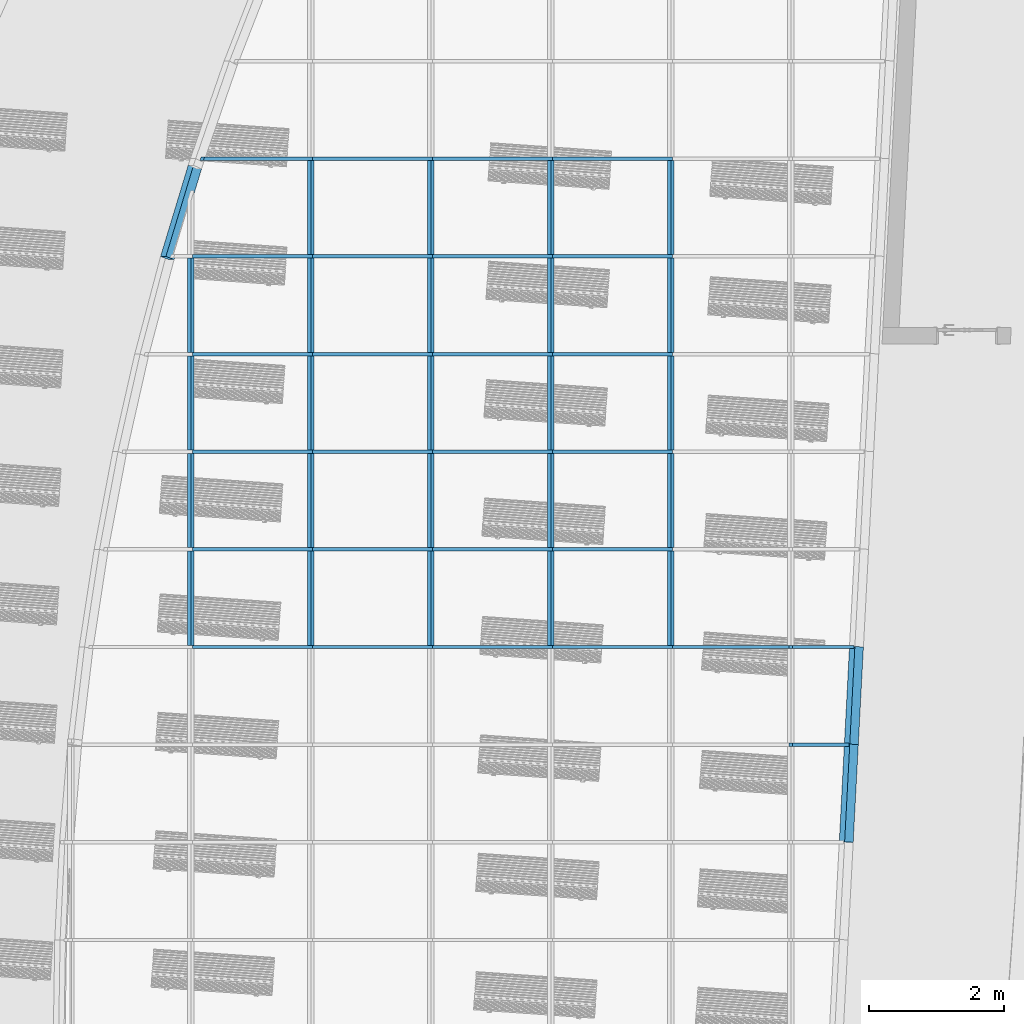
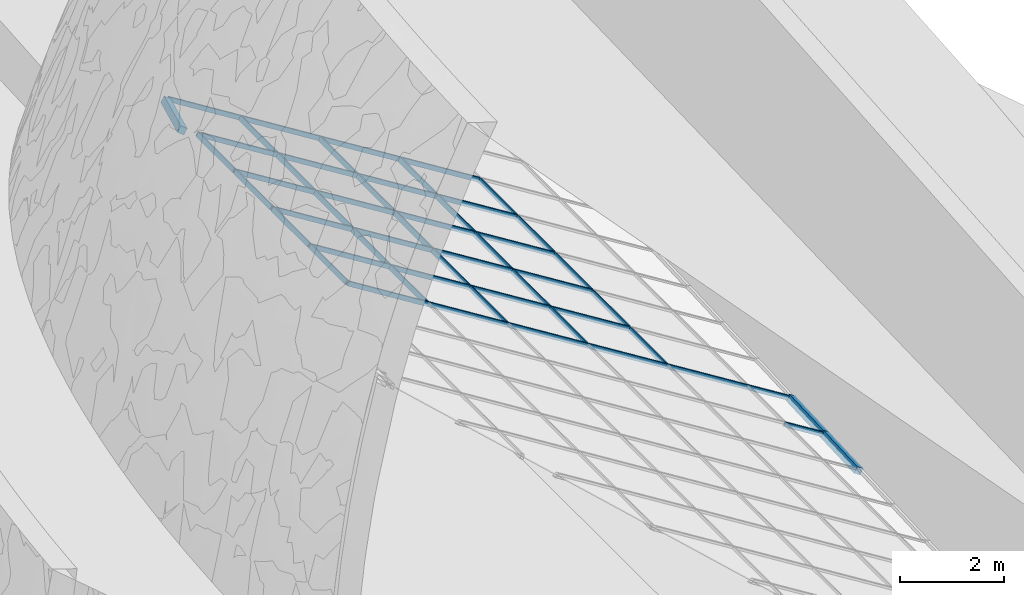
# One storey, part 14 of 82: 54 members, 1 element without a shape of its own.
"""IFC2X3 building model written with IfcOpenShell, lengths in millimetres."""

from ifc_helpers import new_model, entity, si_unit, converted_unit, derived_unit, direction, frame, frame_2d, origin, origin_2d_with_axis, place, context, subcontext, project, spatial, polyline, rectangle, extrude, clip, halfspace, bounded_halfspace, source, transform, mapped, material, type_object, type_shapes, element, aggregate, save


model = new_model("IFC2X3")

# Units and contexts
model_context = context("Model", 3, precision=0.01, world=origin(), true_north=direction((6.12303176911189e-17, 1.0)))
body_context = subcontext(model_context, "Body", "Model", "MODEL_VIEW")
ifc_project = project(units=[si_unit("LENGTHUNIT", "METRE", prefix="MILLI"), si_unit("AREAUNIT", "SQUARE_METRE"), si_unit("VOLUMEUNIT", "CUBIC_METRE"), converted_unit("PLANEANGLEUNIT", "DEGREE", entity("IfcRatioMeasure", 0.0174532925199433), si_unit("PLANEANGLEUNIT", "RADIAN"), dimensions=[0, 0, 0, 0, 0, 0, 0]), si_unit("MASSUNIT", "GRAM", prefix="KILO"), derived_unit("MASSDENSITYUNIT", [(si_unit("MASSUNIT", "GRAM", prefix="KILO"), 1), (si_unit("LENGTHUNIT", "METRE"), -3)]), si_unit("TIMEUNIT", "SECOND"), si_unit("FREQUENCYUNIT", "HERTZ"), si_unit("THERMODYNAMICTEMPERATUREUNIT", "DEGREE_CELSIUS"), derived_unit("THERMALTRANSMITTANCEUNIT", [(si_unit("MASSUNIT", "GRAM", prefix="KILO"), 1), (si_unit("THERMODYNAMICTEMPERATUREUNIT", "KELVIN"), -1), (si_unit("TIMEUNIT", "SECOND"), -3)]), derived_unit("VOLUMETRICFLOWRATEUNIT", [(si_unit("LENGTHUNIT", "METRE"), 3), (si_unit("TIMEUNIT", "SECOND"), -1)]), si_unit("ELECTRICCURRENTUNIT", "AMPERE"), si_unit("ELECTRICVOLTAGEUNIT", "VOLT"), si_unit("POWERUNIT", "WATT"), si_unit("FORCEUNIT", "NEWTON", prefix="KILO"), si_unit("ILLUMINANCEUNIT", "LUX"), si_unit("LUMINOUSFLUXUNIT", "LUMEN"), si_unit("LUMINOUSINTENSITYUNIT", "CANDELA"), derived_unit("USERDEFINED", [(si_unit("MASSUNIT", "GRAM", prefix="KILO"), -1), (si_unit("LENGTHUNIT", "METRE"), -2), (si_unit("TIMEUNIT", "SECOND"), 3), (si_unit("LUMINOUSFLUXUNIT", "LUMEN"), 1)]), derived_unit("LINEARVELOCITYUNIT", [(si_unit("LENGTHUNIT", "METRE"), 1), (si_unit("TIMEUNIT", "SECOND"), -1)]), si_unit("PRESSUREUNIT", "PASCAL"), derived_unit("USERDEFINED", [(si_unit("LENGTHUNIT", "METRE"), -2), (si_unit("MASSUNIT", "GRAM", prefix="KILO"), 1), (si_unit("TIMEUNIT", "SECOND"), -2)])], contexts=[model_context])

# Site, building, storey
site_placement = place(None, origin())
site = spatial("IfcSite", under=ifc_project, at=site_placement, Name="表面", CompositionType="ELEMENT")
building_placement = place(site_placement, origin())
building = spatial("IfcBuilding", under=site, at=building_placement, CompositionType="ELEMENT")
storey_placement = place(building_placement, origin())
storey = spatial("IfcBuildingStorey", under=building, at=storey_placement, Name="1F", CompositionType="ELEMENT", Elevation=0.0)

# Curtain wall, members
curtain_wall_type = type_object("IfcCurtainWallType", Name="幕墙系统:1450 x 2100mm", PredefinedType="NOTDEFINED")
curtain_wall_placement = place(storey_placement, origin())
curtain_wall = element("IfcCurtainWall", 1, at=curtain_wall_placement, inside=storey, type_object=curtain_wall_type, Name="幕墙系统:1450 x 2100mm", ObjectType="幕墙系统:1450 x 2100mm")
ifc_material_1 = material(Name="金属 - 铝")
member_type_1 = type_object("IfcMemberType", Name="50 x 100mm", PredefinedType="MEMBER")
shared_shape_1 = source(origin(), body_context, "Body", "SweptSolid", [
    extrude(rectangle(XDim=100.0, YDim=50.0, at=origin_2d_with_axis()), frame((0.0, 0.0, -1400.0), z_axis=(0.0, 0.0, 1.0), x_axis=(0.0, -1.0, 0.0)), (0.0, 0.0, 1.0), 1400.0),
])
type_shapes(member_type_1, [shared_shape_1])
placement = place(building_placement, frame((0.0, 0.0, 9000.0)))
member_1_placement = place(placement, frame((-21700.0006149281, -4713.90315351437, 4255.86225190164), z_axis=(0.0, 1.0, 0.0), x_axis=(-0.848048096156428, 0.0, 0.529919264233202)))
member_1 = element("IfcMember", 2, at=member_1_placement, type_object=member_type_1, material=ifc_material_1, Name="矩形竖梃:50 x 100mm", ObjectType="50 x 100mm", context=body_context, shape_type="MappedRepresentation", body=[
    mapped(shared_shape_1, transform((0.0, 0.0, 0.0), scale=1.0)),
])
member_2_placement = place(placement, frame((-21700.0006149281, -6163.90315351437, 4255.86225190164), z_axis=(0.0, 1.0, 0.0), x_axis=(-0.848048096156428, 0.0, 0.529919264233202)))
member_2 = element("IfcMember", 3, at=member_2_placement, type_object=member_type_1, material=ifc_material_1, Name="矩形竖梃:50 x 100mm", ObjectType="50 x 100mm", context=body_context, shape_type="MappedRepresentation", body=[
    mapped(shared_shape_1, transform((0.0, 0.0, 0.0), scale=1.0)),
])
member_3_placement = place(placement, frame((-21700.0006149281, -7613.90315351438, 4255.86225190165), z_axis=(0.0, 1.0, 0.0), x_axis=(-0.848048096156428, 0.0, 0.529919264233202)))
member_3 = element("IfcMember", 4, at=member_3_placement, type_object=member_type_1, material=ifc_material_1, Name="矩形竖梃:50 x 100mm", ObjectType="50 x 100mm", context=body_context, shape_type="MappedRepresentation", body=[
    mapped(shared_shape_1, transform((0.0, 0.0, 0.0), scale=1.0)),
])
member_4_placement = place(placement, frame((-21700.0006149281, -9063.90315351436, 4255.86225190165), z_axis=(0.0, 1.0, 0.0), x_axis=(-0.848048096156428, 0.0, 0.529919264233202)))
member_4 = element("IfcMember", 5, at=member_4_placement, type_object=member_type_1, material=ifc_material_1, Name="矩形竖梃:50 x 100mm", ObjectType="50 x 100mm", context=body_context, shape_type="MappedRepresentation", body=[
    mapped(shared_shape_1, transform((0.0, 0.0, 0.0), scale=1.0)),
])
member_5_placement = place(placement, frame((-21700.0006149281, -10513.9031535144, 4255.86225190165), z_axis=(0.0, 1.0, 0.0), x_axis=(-0.848048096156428, 0.0, 0.529919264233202)))
member_5 = element("IfcMember", 6, at=member_5_placement, type_object=member_type_1, material=ifc_material_1, Name="矩形竖梃:50 x 100mm", ObjectType="50 x 100mm", context=body_context, shape_type="MappedRepresentation", body=[
    mapped(shared_shape_1, transform((0.0, 0.0, 0.0), scale=1.0)),
])
member_6_placement = place(placement, frame((-23480.9016168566, -4713.90315351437, 5368.69270679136), z_axis=(0.0, 1.0, 0.0), x_axis=(-0.848048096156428, 0.0, 0.529919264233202)))
member_6 = element("IfcMember", 7, at=member_6_placement, type_object=member_type_1, material=ifc_material_1, Name="矩形竖梃:50 x 100mm", ObjectType="50 x 100mm", context=body_context, shape_type="MappedRepresentation", body=[
    mapped(shared_shape_1, transform((0.0, 0.0, 0.0), scale=1.0)),
])
member_7_placement = place(placement, frame((-23480.9016168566, -6163.90315351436, 5368.69270679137), z_axis=(0.0, 1.0, 0.0), x_axis=(-0.848048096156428, 0.0, 0.529919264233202)))
member_7 = element("IfcMember", 8, at=member_7_placement, type_object=member_type_1, material=ifc_material_1, Name="矩形竖梃:50 x 100mm", ObjectType="50 x 100mm", context=body_context, shape_type="MappedRepresentation", body=[
    mapped(shared_shape_1, transform((0.0, 0.0, 0.0), scale=1.0)),
])
member_8_placement = place(placement, frame((-23480.9016168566, -7613.90315351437, 5368.69270679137), z_axis=(0.0, 1.0, 0.0), x_axis=(-0.848048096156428, 0.0, 0.529919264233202)))
member_8 = element("IfcMember", 9, at=member_8_placement, type_object=member_type_1, material=ifc_material_1, Name="矩形竖梃:50 x 100mm", ObjectType="50 x 100mm", context=body_context, shape_type="MappedRepresentation", body=[
    mapped(shared_shape_1, transform((0.0, 0.0, 0.0), scale=1.0)),
])
member_9_placement = place(placement, frame((-23480.9016168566, -9063.90315351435, 5368.69270679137), z_axis=(0.0, 1.0, 0.0), x_axis=(-0.848048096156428, 0.0, 0.529919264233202)))
member_9 = element("IfcMember", 10, at=member_9_placement, type_object=member_type_1, material=ifc_material_1, Name="矩形竖梃:50 x 100mm", ObjectType="50 x 100mm", context=body_context, shape_type="MappedRepresentation", body=[
    mapped(shared_shape_1, transform((0.0, 0.0, 0.0), scale=1.0)),
])
member_10_placement = place(placement, frame((-23480.9016168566, -10513.9031535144, 5368.69270679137), z_axis=(0.0, 1.0, 0.0), x_axis=(-0.848048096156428, 0.0, 0.529919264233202)))
member_10 = element("IfcMember", 11, at=member_10_placement, type_object=member_type_1, material=ifc_material_1, Name="矩形竖梃:50 x 100mm", ObjectType="50 x 100mm", context=body_context, shape_type="MappedRepresentation", body=[
    mapped(shared_shape_1, transform((0.0, 0.0, 0.0), scale=1.0)),
])
member_11_placement = place(placement, frame((-25261.8026187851, -4713.90315351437, 6481.52316168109), z_axis=(0.0, 1.0, 0.0), x_axis=(-0.848048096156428, 0.0, 0.529919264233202)))
member_11 = element("IfcMember", 12, at=member_11_placement, type_object=member_type_1, material=ifc_material_1, Name="矩形竖梃:50 x 100mm", ObjectType="50 x 100mm", context=body_context, shape_type="MappedRepresentation", body=[
    mapped(shared_shape_1, transform((0.0, 0.0, 0.0), scale=1.0)),
])
member_12_placement = place(placement, frame((-25261.8026187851, -6163.90315351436, 6481.52316168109), z_axis=(0.0, 1.0, 0.0), x_axis=(-0.848048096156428, 0.0, 0.529919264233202)))
member_12 = element("IfcMember", 13, at=member_12_placement, type_object=member_type_1, material=ifc_material_1, Name="矩形竖梃:50 x 100mm", ObjectType="50 x 100mm", context=body_context, shape_type="MappedRepresentation", body=[
    mapped(shared_shape_1, transform((0.0, 0.0, 0.0), scale=1.0)),
])
member_13_placement = place(placement, frame((-25261.8026187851, -7613.90315351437, 6481.52316168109), z_axis=(0.0, 1.0, 0.0), x_axis=(-0.848048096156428, 0.0, 0.529919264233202)))
member_13 = element("IfcMember", 14, at=member_13_placement, type_object=member_type_1, material=ifc_material_1, Name="矩形竖梃:50 x 100mm", ObjectType="50 x 100mm", context=body_context, shape_type="MappedRepresentation", body=[
    mapped(shared_shape_1, transform((0.0, 0.0, 0.0), scale=1.0)),
])
member_14_placement = place(placement, frame((-25261.8026187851, -9063.90315351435, 6481.52316168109), z_axis=(0.0, 1.0, 0.0), x_axis=(-0.848048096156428, 0.0, 0.529919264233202)))
member_14 = element("IfcMember", 15, at=member_14_placement, type_object=member_type_1, material=ifc_material_1, Name="矩形竖梃:50 x 100mm", ObjectType="50 x 100mm", context=body_context, shape_type="MappedRepresentation", body=[
    mapped(shared_shape_1, transform((0.0, 0.0, 0.0), scale=1.0)),
])
member_15_placement = place(placement, frame((-25261.8026187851, -10513.9031535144, 6481.5231616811), z_axis=(0.0, 1.0, 0.0), x_axis=(-0.848048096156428, 0.0, 0.529919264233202)))
member_15 = element("IfcMember", 16, at=member_15_placement, type_object=member_type_1, material=ifc_material_1, Name="矩形竖梃:50 x 100mm", ObjectType="50 x 100mm", context=body_context, shape_type="MappedRepresentation", body=[
    mapped(shared_shape_1, transform((0.0, 0.0, 0.0), scale=1.0)),
])
member_16_placement = place(placement, frame((-27042.7036207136, -4713.90315351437, 7594.35361657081), z_axis=(0.0, 1.0, 0.0), x_axis=(-0.848048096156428, 0.0, 0.529919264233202)))
member_16 = element("IfcMember", 17, at=member_16_placement, type_object=member_type_1, material=ifc_material_1, Name="矩形竖梃:50 x 100mm", ObjectType="50 x 100mm", context=body_context, shape_type="MappedRepresentation", body=[
    mapped(shared_shape_1, transform((0.0, 0.0, 0.0), scale=1.0)),
])
member_17_placement = place(placement, frame((-27042.7036207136, -6163.90315351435, 7594.35361657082), z_axis=(0.0, 1.0, 0.0), x_axis=(-0.848048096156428, 0.0, 0.529919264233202)))
member_17 = element("IfcMember", 18, at=member_17_placement, type_object=member_type_1, material=ifc_material_1, Name="矩形竖梃:50 x 100mm", ObjectType="50 x 100mm", context=body_context, shape_type="MappedRepresentation", body=[
    mapped(shared_shape_1, transform((0.0, 0.0, 0.0), scale=1.0)),
])
member_18_placement = place(placement, frame((-27042.7036207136, -7613.90315351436, 7594.35361657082), z_axis=(0.0, 1.0, 0.0), x_axis=(-0.848048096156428, 0.0, 0.529919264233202)))
member_18 = element("IfcMember", 19, at=member_18_placement, type_object=member_type_1, material=ifc_material_1, Name="矩形竖梃:50 x 100mm", ObjectType="50 x 100mm", context=body_context, shape_type="MappedRepresentation", body=[
    mapped(shared_shape_1, transform((0.0, 0.0, 0.0), scale=1.0)),
])
member_19_placement = place(placement, frame((-27042.7036207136, -9063.90315351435, 7594.35361657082), z_axis=(0.0, 1.0, 0.0), x_axis=(-0.848048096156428, 0.0, 0.529919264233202)))
member_19 = element("IfcMember", 20, at=member_19_placement, type_object=member_type_1, material=ifc_material_1, Name="矩形竖梃:50 x 100mm", ObjectType="50 x 100mm", context=body_context, shape_type="MappedRepresentation", body=[
    mapped(shared_shape_1, transform((0.0, 0.0, 0.0), scale=1.0)),
])
member_20_placement = place(placement, frame((-27042.7036207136, -10513.9031535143, 7594.35361657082), z_axis=(0.0, 1.0, 0.0), x_axis=(-0.848048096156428, 0.0, 0.529919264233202)))
member_20 = element("IfcMember", 21, at=member_20_placement, type_object=member_type_1, material=ifc_material_1, Name="矩形竖梃:50 x 100mm", ObjectType="50 x 100mm", context=body_context, shape_type="MappedRepresentation", body=[
    mapped(shared_shape_1, transform((0.0, 0.0, 0.0), scale=1.0)),
])
member_21_placement = place(placement, frame((-28823.6046226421, -6163.90315351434, 8707.18407146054), z_axis=(0.0, 1.0, 0.0), x_axis=(-0.848048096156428, 0.0, 0.529919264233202)))
member_21 = element("IfcMember", 22, at=member_21_placement, type_object=member_type_1, material=ifc_material_1, Name="矩形竖梃:50 x 100mm", ObjectType="50 x 100mm", context=body_context, shape_type="MappedRepresentation", body=[
    mapped(shared_shape_1, transform((0.0, 0.0, 0.0), scale=1.0)),
])
member_22_placement = place(placement, frame((-28823.6046226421, -7613.90315351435, 8707.18407146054), z_axis=(0.0, 1.0, 0.0), x_axis=(-0.848048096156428, 0.0, 0.529919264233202)))
member_22 = element("IfcMember", 23, at=member_22_placement, type_object=member_type_1, material=ifc_material_1, Name="矩形竖梃:50 x 100mm", ObjectType="50 x 100mm", context=body_context, shape_type="MappedRepresentation", body=[
    mapped(shared_shape_1, transform((0.0, 0.0, 0.0), scale=1.0)),
])
member_23_placement = place(placement, frame((-28823.6046226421, -9063.90315351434, 8707.18407146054), z_axis=(0.0, 1.0, 0.0), x_axis=(-0.848048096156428, 0.0, 0.529919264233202)))
member_23 = element("IfcMember", 24, at=member_23_placement, type_object=member_type_1, material=ifc_material_1, Name="矩形竖梃:50 x 100mm", ObjectType="50 x 100mm", context=body_context, shape_type="MappedRepresentation", body=[
    mapped(shared_shape_1, transform((0.0, 0.0, 0.0), scale=1.0)),
])
member_24_placement = place(placement, frame((-28823.6046226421, -10513.9031535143, 8707.18407146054), z_axis=(0.0, 1.0, 0.0), x_axis=(-0.848048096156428, 0.0, 0.529919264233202)))
member_24 = element("IfcMember", 25, at=member_24_placement, type_object=member_type_1, material=ifc_material_1, Name="矩形竖梃:50 x 100mm", ObjectType="50 x 100mm", context=body_context, shape_type="MappedRepresentation", body=[
    mapped(shared_shape_1, transform((0.0, 0.0, 0.0), scale=1.0)),
])
member_type_2 = type_object("IfcMemberType", Name="50 x 100mm", PredefinedType="MEMBER")
shared_shape_2 = source(origin(), body_context, "Body", "SweptSolid", [
    extrude(rectangle(XDim=100.0, YDim=50.0, at=origin_2d_with_axis()), frame((0.0, 0.0, -2100.0), z_axis=(0.0, 0.0, 1.0), x_axis=(0.0, -1.0, 0.0)), (0.0, 0.0, 1.0), 2100.0),
])
type_shapes(member_type_2, [shared_shape_2])
member_25_placement = place(placement, frame((-21700.0006149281, -11938.9031535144, 4255.86225190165), z_axis=(-0.848048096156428, 0.0, 0.529919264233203), x_axis=(0.0, -1.0, 0.0)))
member_25 = element("IfcMember", 26, at=member_25_placement, type_object=member_type_2, material=ifc_material_1, Name="矩形竖梃:50 x 100mm", ObjectType="50 x 100mm", context=body_context, shape_type="MappedRepresentation", body=[
    mapped(shared_shape_2, transform((0.0, 0.0, 0.0), scale=1.0)),
])
member_26_placement = place(placement, frame((-23480.9016168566, -4688.90315351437, 5368.69270679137), z_axis=(-0.848048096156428, 0.0, 0.529919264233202), x_axis=(0.0, -1.0, 0.0)))
member_26 = element("IfcMember", 27, at=member_26_placement, type_object=member_type_2, material=ifc_material_1, Name="矩形竖梃:50 x 100mm", ObjectType="50 x 100mm", context=body_context, shape_type="MappedRepresentation", body=[
    mapped(shared_shape_2, transform((0.0, 0.0, 0.0), scale=1.0)),
])
member_27_placement = place(placement, frame((-23480.9016168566, -6138.90315351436, 5368.69270679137), z_axis=(-0.848048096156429, 0.0, 0.529919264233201), x_axis=(0.0, -1.0, 0.0)))
member_27 = element("IfcMember", 28, at=member_27_placement, type_object=member_type_2, material=ifc_material_1, Name="矩形竖梃:50 x 100mm", ObjectType="50 x 100mm", context=body_context, shape_type="MappedRepresentation", body=[
    mapped(shared_shape_2, transform((0.0, 0.0, 0.0), scale=1.0)),
])
member_28_placement = place(placement, frame((-23480.9016168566, -7588.90315351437, 5368.69270679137), z_axis=(-0.848048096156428, 0.0, 0.529919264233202), x_axis=(0.0, -1.0, 0.0)))
member_28 = element("IfcMember", 29, at=member_28_placement, type_object=member_type_2, material=ifc_material_1, Name="矩形竖梃:50 x 100mm", ObjectType="50 x 100mm", context=body_context, shape_type="MappedRepresentation", body=[
    mapped(shared_shape_2, transform((0.0, 0.0, 0.0), scale=1.0)),
])
member_29_placement = place(placement, frame((-23480.9016168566, -9038.90315351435, 5368.69270679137), z_axis=(-0.848048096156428, 0.0, 0.529919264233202), x_axis=(0.0, -1.0, 0.0)))
member_29 = element("IfcMember", 30, at=member_29_placement, type_object=member_type_2, material=ifc_material_1, Name="矩形竖梃:50 x 100mm", ObjectType="50 x 100mm", context=body_context, shape_type="MappedRepresentation", body=[
    mapped(shared_shape_2, transform((0.0, 0.0, 0.0), scale=1.0)),
])
member_30_placement = place(placement, frame((-23480.9016168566, -10488.9031535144, 5368.69270679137), z_axis=(-0.848048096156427, 0.0, 0.529919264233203), x_axis=(0.0, -1.0, 0.0)))
member_30 = element("IfcMember", 31, at=member_30_placement, type_object=member_type_2, material=ifc_material_1, Name="矩形竖梃:50 x 100mm", ObjectType="50 x 100mm", context=body_context, shape_type="MappedRepresentation", body=[
    mapped(shared_shape_2, transform((0.0, 0.0, 0.0), scale=1.0)),
])
member_31_placement = place(placement, frame((-23480.9016168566, -11938.9031535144, 5368.69270679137), z_axis=(-0.848048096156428, 0.0, 0.529919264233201), x_axis=(0.0, -1.0, 0.0)))
member_31 = element("IfcMember", 32, at=member_31_placement, type_object=member_type_2, material=ifc_material_1, Name="矩形竖梃:50 x 100mm", ObjectType="50 x 100mm", context=body_context, shape_type="MappedRepresentation", body=[
    mapped(shared_shape_2, transform((0.0, 0.0, 0.0), scale=1.0)),
])
member_32_placement = place(placement, frame((-25261.8026187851, -4688.90315351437, 6481.52316168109), z_axis=(-0.848048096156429, 0.0, 0.529919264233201), x_axis=(0.0, -1.0, 0.0)))
member_32 = element("IfcMember", 33, at=member_32_placement, type_object=member_type_2, material=ifc_material_1, Name="矩形竖梃:50 x 100mm", ObjectType="50 x 100mm", context=body_context, shape_type="MappedRepresentation", body=[
    mapped(shared_shape_2, transform((0.0, 0.0, 0.0), scale=1.0)),
])
member_33_placement = place(placement, frame((-25261.8026187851, -6138.90315351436, 6481.52316168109), z_axis=(-0.848048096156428, 0.0, 0.529919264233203), x_axis=(0.0, -1.0, 0.0)))
member_33 = element("IfcMember", 34, at=member_33_placement, type_object=member_type_2, material=ifc_material_1, Name="矩形竖梃:50 x 100mm", ObjectType="50 x 100mm", context=body_context, shape_type="MappedRepresentation", body=[
    mapped(shared_shape_2, transform((0.0, 0.0, 0.0), scale=1.0)),
])
member_34_placement = place(placement, frame((-25261.8026187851, -7588.90315351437, 6481.52316168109), z_axis=(-0.848048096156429, 0.0, 0.529919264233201), x_axis=(0.0, -1.0, 0.0)))
member_34 = element("IfcMember", 35, at=member_34_placement, type_object=member_type_2, material=ifc_material_1, Name="矩形竖梃:50 x 100mm", ObjectType="50 x 100mm", context=body_context, shape_type="MappedRepresentation", body=[
    mapped(shared_shape_2, transform((0.0, 0.0, 0.0), scale=1.0)),
])
member_35_placement = place(placement, frame((-25261.8026187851, -9038.90315351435, 6481.52316168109), z_axis=(-0.848048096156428, 0.0, 0.529919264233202), x_axis=(0.0, -1.0, 0.0)))
member_35 = element("IfcMember", 36, at=member_35_placement, type_object=member_type_2, material=ifc_material_1, Name="矩形竖梃:50 x 100mm", ObjectType="50 x 100mm", context=body_context, shape_type="MappedRepresentation", body=[
    mapped(shared_shape_2, transform((0.0, 0.0, 0.0), scale=1.0)),
])
member_36_placement = place(placement, frame((-25261.8026187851, -10488.9031535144, 6481.5231616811), z_axis=(-0.848048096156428, 0.0, 0.529919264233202), x_axis=(0.0, -1.0, 0.0)))
member_36 = element("IfcMember", 37, at=member_36_placement, type_object=member_type_2, material=ifc_material_1, Name="矩形竖梃:50 x 100mm", ObjectType="50 x 100mm", context=body_context, shape_type="MappedRepresentation", body=[
    mapped(shared_shape_2, transform((0.0, 0.0, 0.0), scale=1.0)),
])
member_37_placement = place(placement, frame((-25261.8026187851, -11938.9031535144, 6481.5231616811), z_axis=(-0.848048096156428, 0.0, 0.529919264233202), x_axis=(0.0, -1.0, 0.0)))
member_37 = element("IfcMember", 38, at=member_37_placement, type_object=member_type_2, material=ifc_material_1, Name="矩形竖梃:50 x 100mm", ObjectType="50 x 100mm", context=body_context, shape_type="MappedRepresentation", body=[
    mapped(shared_shape_2, transform((0.0, 0.0, 0.0), scale=1.0)),
])
member_38_placement = place(placement, frame((-27042.7036207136, -4688.90315351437, 7594.35361657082), z_axis=(-0.848048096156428, 0.0, 0.529919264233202), x_axis=(0.0, -1.0, 0.0)))
member_38 = element("IfcMember", 39, at=member_38_placement, type_object=member_type_2, material=ifc_material_1, Name="矩形竖梃:50 x 100mm", ObjectType="50 x 100mm", context=body_context, shape_type="MappedRepresentation", body=[
    mapped(shared_shape_2, transform((0.0, 0.0, 0.0), scale=1.0)),
])
member_39_placement = place(placement, frame((-27042.7036207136, -6138.90315351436, 7594.35361657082), z_axis=(-0.848048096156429, 0.0, 0.529919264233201), x_axis=(0.0, -1.0, 0.0)))
member_39 = element("IfcMember", 40, at=member_39_placement, type_object=member_type_2, material=ifc_material_1, Name="矩形竖梃:50 x 100mm", ObjectType="50 x 100mm", context=body_context, shape_type="MappedRepresentation", body=[
    mapped(shared_shape_2, transform((0.0, 0.0, 0.0), scale=1.0)),
])
member_40_placement = place(placement, frame((-27042.7036207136, -7588.90315351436, 7594.35361657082), z_axis=(-0.848048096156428, 0.0, 0.529919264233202), x_axis=(0.0, -1.0, 0.0)))
member_40 = element("IfcMember", 41, at=member_40_placement, type_object=member_type_2, material=ifc_material_1, Name="矩形竖梃:50 x 100mm", ObjectType="50 x 100mm", context=body_context, shape_type="MappedRepresentation", body=[
    mapped(shared_shape_2, transform((0.0, 0.0, 0.0), scale=1.0)),
])
member_41_placement = place(placement, frame((-27042.7036207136, -9038.90315351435, 7594.35361657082), z_axis=(-0.848048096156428, 0.0, 0.529919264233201), x_axis=(0.0, -1.0, 0.0)))
member_41 = element("IfcMember", 42, at=member_41_placement, type_object=member_type_2, material=ifc_material_1, Name="矩形竖梃:50 x 100mm", ObjectType="50 x 100mm", context=body_context, shape_type="MappedRepresentation", body=[
    mapped(shared_shape_2, transform((0.0, 0.0, 0.0), scale=1.0)),
])
member_42_placement = place(placement, frame((-27042.7036207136, -10488.9031535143, 7594.35361657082), z_axis=(-0.848048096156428, 0.0, 0.529919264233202), x_axis=(0.0, -1.0, 0.0)))
member_42 = element("IfcMember", 43, at=member_42_placement, type_object=member_type_2, material=ifc_material_1, Name="矩形竖梃:50 x 100mm", ObjectType="50 x 100mm", context=body_context, shape_type="MappedRepresentation", body=[
    mapped(shared_shape_2, transform((0.0, 0.0, 0.0), scale=1.0)),
])
member_43_placement = place(placement, frame((-27042.7036207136, -11938.9031535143, 7594.35361657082), z_axis=(-0.848048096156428, 0.0, 0.529919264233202), x_axis=(0.0, -1.0, 0.0)))
member_43 = element("IfcMember", 44, at=member_43_placement, type_object=member_type_2, material=ifc_material_1, Name="矩形竖梃:50 x 100mm", ObjectType="50 x 100mm", context=body_context, shape_type="MappedRepresentation", body=[
    mapped(shared_shape_2, transform((0.0, 0.0, 0.0), scale=1.0)),
])
member_44_placement = place(placement, frame((-28823.6046226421, -6138.90315351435, 8707.18407146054), z_axis=(-0.848048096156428, 0.0, 0.529919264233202), x_axis=(0.0, -1.0, 0.0)))
member_44 = element("IfcMember", 45, at=member_44_placement, type_object=member_type_2, material=ifc_material_1, Name="矩形竖梃:50 x 100mm", ObjectType="50 x 100mm", context=body_context, shape_type="MappedRepresentation", body=[
    mapped(shared_shape_2, transform((0.0, 0.0, 0.0), scale=1.0)),
])
member_45_placement = place(placement, frame((-28823.6046226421, -7588.90315351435, 8707.18407146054), z_axis=(-0.848048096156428, 0.0, 0.529919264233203), x_axis=(0.0, -1.0, 0.0)))
member_45 = element("IfcMember", 46, at=member_45_placement, type_object=member_type_2, material=ifc_material_1, Name="矩形竖梃:50 x 100mm", ObjectType="50 x 100mm", context=body_context, shape_type="MappedRepresentation", body=[
    mapped(shared_shape_2, transform((0.0, 0.0, 0.0), scale=1.0)),
])
member_46_placement = place(placement, frame((-28823.6046226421, -9038.90315351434, 8707.18407146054), z_axis=(-0.848048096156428, 0.0, 0.529919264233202), x_axis=(0.0, -1.0, 0.0)))
member_46 = element("IfcMember", 47, at=member_46_placement, type_object=member_type_2, material=ifc_material_1, Name="矩形竖梃:50 x 100mm", ObjectType="50 x 100mm", context=body_context, shape_type="MappedRepresentation", body=[
    mapped(shared_shape_2, transform((0.0, 0.0, 0.0), scale=1.0)),
])
member_47_placement = place(placement, frame((-28823.6046226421, -10488.9031535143, 8707.18407146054), z_axis=(-0.848048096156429, 0.0, 0.529919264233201), x_axis=(0.0, -1.0, 0.0)))
member_47 = element("IfcMember", 48, at=member_47_placement, type_object=member_type_2, material=ifc_material_1, Name="矩形竖梃:50 x 100mm", ObjectType="50 x 100mm", context=body_context, shape_type="MappedRepresentation", body=[
    mapped(shared_shape_2, transform((0.0, 0.0, 0.0), scale=1.0)),
])
member_48_placement = place(placement, frame((-28823.6046226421, -11938.9031535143, 8707.18407146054), z_axis=(-0.848048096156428, 0.0, 0.529919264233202), x_axis=(0.0, -1.0, 0.0)))
member_48 = element("IfcMember", 49, at=member_48_placement, type_object=member_type_2, material=ifc_material_1, Name="矩形竖梃:50 x 100mm", ObjectType="50 x 100mm", context=body_context, shape_type="MappedRepresentation", body=[
    mapped(shared_shape_2, transform((0.0, 0.0, 0.0), scale=1.0)),
])
ifc_material_2 = material(Name="木质 - 木材")
member_type_3 = type_object("IfcMemberType", Name="200 x 150mm", PredefinedType="MEMBER")
shared_shape_3 = source(origin(), body_context, "Body", "SweptSolid", [
    extrude(rectangle(XDim=150.0, YDim=150.0, at=frame_2d((2.8421709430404e-14, 0.0), x_axis=(1.0, 0.0))), frame((-75.0, 0.0, -1452.76614220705), z_axis=(0.0, 0.0, 1.0), x_axis=(0.0, -1.0, 0.0)), (0.0, 0.0, 1.0), 1452.76614220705),
])
type_shapes(member_type_3, [shared_shape_3])
member_49_placement = place(placement, frame((-18953.6061554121, -13388.9031535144, 2539.7245258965), z_axis=(-0.0523079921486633, -0.998095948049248, 0.0326856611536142), x_axis=(0.846433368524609, -0.0616804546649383, -0.528910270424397)))
member_49 = element("IfcMember", 50, at=member_49_placement, type_object=member_type_3, material=ifc_material_2, Name="矩形竖梃:200 x 150mm", ObjectType="200 x 150mm", context=body_context, shape_type="MappedRepresentation", body=[
    mapped(shared_shape_3, transform((0.0, 0.0, 0.0), scale=1.0)),
])
member_50_placement = place(placement, frame((-19029.5974353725, -14838.9031535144, 2587.20914775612), z_axis=(-0.0523079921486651, -0.998095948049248, 0.0326856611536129), x_axis=(0.846433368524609, -0.0616804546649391, -0.528910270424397)))
member_50 = element("IfcMember", 51, at=member_50_placement, type_object=member_type_3, material=ifc_material_2, Name="矩形竖梃:200 x 150mm", ObjectType="200 x 150mm", context=body_context, shape_type="MappedRepresentation", body=[
    mapped(shared_shape_3, transform((0.0, 0.0, 0.0), scale=1.0)),
])
member_type_4 = type_object("IfcMemberType", Name="200 x 150mm", PredefinedType="MEMBER")
shared_shape_4 = source(origin(), body_context, "Body", "Clipping", [
    clip(clip(extrude(rectangle(XDim=150.0, YDim=150.0, at=frame_2d((0.0, 8.5265128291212e-14), x_axis=(1.0, 0.0))), frame((-75.0, 0.0, -1437.0088115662), z_axis=(0.0, 0.0, 1.0), x_axis=(0.0, -1.0, 0.0)), (0.0, 0.0, 1.0), 1437.0088115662), halfspace(frame((0.0, -304.8, -1437.0088115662), z_axis=(-0.020386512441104, 0.0, -0.999792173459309), x_axis=(-0.999792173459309, 0.0, 0.020386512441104)), False)), halfspace(frame((0.0, -304.8, 0.0), z_axis=(-0.0106254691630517, 0.0, 0.999943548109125), x_axis=(-0.999943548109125, 0.0, -0.0106254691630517)), False)),
])
type_shapes(member_type_4, [shared_shape_4])
member_51_placement = place(placement, frame((-28823.6046226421, -4785.69882023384, 8707.18407146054), z_axis=(0.285373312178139, 0.941681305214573, -0.17832103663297), x_axis=(-0.798591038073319, 0.33650604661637, 0.499015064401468)))
member_51 = element("IfcMember", 52, at=member_51_placement, type_object=member_type_4, material=ifc_material_2, Name="矩形竖梃:200 x 150mm", ObjectType="200 x 150mm", context=body_context, shape_type="MappedRepresentation", body=[
    mapped(shared_shape_4, transform((0.0, 0.0, 0.0), scale=1.0)),
])
member_type_5 = type_object("IfcMemberType", Name="50 x 100mm", PredefinedType="MEMBER")
shared_shape_5 = source(origin(), body_context, "Body", "Clipping", [
    clip(extrude(rectangle(XDim=100.0, YDim=50.0, at=origin_2d_with_axis()), frame((0.0, 0.0, -2063.07263702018), z_axis=(0.0, 0.0, 1.0), x_axis=(0.0, -1.0, 0.0)), (0.0, 0.0, 1.0), 1911.26431599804), halfspace(frame((-1393.32031552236, 75.0, -730.656609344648), z_axis=(-0.377864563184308, 0.0, 0.92586088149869), x_axis=(0.92586088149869, 0.0, 0.377864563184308)), False)),
])
type_shapes(member_type_5, [shared_shape_5])
member_52_placement = place(placement, frame((-28792.288442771, -4688.90315351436, 8687.6155504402), z_axis=(-0.848048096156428, 0.0, 0.529919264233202), x_axis=(0.0, -1.0, 0.0)))
member_52 = element("IfcMember", 53, at=member_52_placement, type_object=member_type_5, material=ifc_material_1, Name="矩形竖梃:50 x 100mm", ObjectType="50 x 100mm", context=body_context, shape_type="MappedRepresentation", body=[
    mapped(shared_shape_5, transform((0.0, 0.0, 0.0), scale=1.0)),
])
member_type_6 = type_object("IfcMemberType", Name="50 x 100mm", PredefinedType="MEMBER")
shared_shape_6 = source(origin(), body_context, "Body", "Clipping", [
    clip(clip(extrude(rectangle(XDim=100.0, YDim=50.0, at=origin_2d_with_axis()), frame((0.0, 0.0, -1079.35511034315), z_axis=(0.0, 0.0, 1.0), x_axis=(0.0, -1.0, 0.0)), (0.0, 0.0, 1.0), 1079.35511034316), bounded_halfspace(frame((-9.25206819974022, 75.0, -1078.38191774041), z_axis=(0.0616804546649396, 0.0, -0.998095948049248), x_axis=(-0.998095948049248, 0.0, -0.0616804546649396)), False, frame((0.0, 0.0, -1079.35511034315), z_axis=(0.0, 0.0, 1.0), x_axis=(0.0, -1.0, 0.0)), polyline([(50.0, -9.25206819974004), (50.0, -25.0), (-50.0, -25.0), (-50.0, -9.25206819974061), (50.0, -9.25206819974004)]))), bounded_halfspace(frame((1440.74793180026, 75.0, -988.774641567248), z_axis=(0.0616804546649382, 0.0, -0.998095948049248), x_axis=(-0.998095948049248, 0.0, -0.0616804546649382)), False, frame((0.0, 0.0, -1079.35511034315), z_axis=(0.0, 0.0, 1.0), x_axis=(0.0, -1.0, 0.0)), polyline([(-50.0, 25.0), (50.0, 25.0), (50.0, -9.25206819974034), (-50.0, -9.25206819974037), (-50.0, 25.0)]))),
])
type_shapes(member_type_6, [shared_shape_6])
member_53_placement = place(placement, frame((-19919.0996129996, -11938.9031535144, 3143.03179701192), z_axis=(-0.848048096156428, 0.0, 0.529919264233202), x_axis=(0.0, -1.0, 0.0)))
member_53 = element("IfcMember", 54, at=member_53_placement, type_object=member_type_6, material=ifc_material_1, Name="矩形竖梃:50 x 100mm", ObjectType="50 x 100mm", context=body_context, shape_type="MappedRepresentation", body=[
    mapped(shared_shape_6, transform((0.0, 0.0, 0.0), scale=1.0)),
])
member_type_7 = type_object("IfcMemberType", Name="50 x 100mm", PredefinedType="MEMBER")
shared_shape_7 = source(origin(), body_context, "Body", "Clipping", [
    clip(clip(extrude(rectangle(XDim=100.0, YDim=50.0, at=origin_2d_with_axis()), frame((0.0, 0.0, -989.747834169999), z_axis=(0.0, 0.0, 1.0), x_axis=(0.0, -1.0, 0.0)), (0.0, 0.0, 1.0), 989.747834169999), bounded_halfspace(frame((-9.25206819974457, 75.0, -988.774641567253), z_axis=(0.0616804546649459, 0.0, -0.998095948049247), x_axis=(-0.998095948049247, 0.0, -0.0616804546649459)), False, frame((0.0, 0.0, -989.747834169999), z_axis=(0.0, 0.0, 1.0), x_axis=(0.0, -1.0, 0.0)), polyline([(50.0, -9.25206819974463), (50.0, -25.0), (-50.0, -25.0), (-50.0, -9.25206819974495), (50.0, -9.25206819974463)]))), bounded_halfspace(frame((1440.74793180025, 75.0, -899.167365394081), z_axis=(0.0616804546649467, 0.0, -0.998095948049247), x_axis=(-0.998095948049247, 0.0, -0.0616804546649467)), False, frame((0.0, 0.0, -989.747834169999), z_axis=(0.0, 0.0, 1.0), x_axis=(0.0, -1.0, 0.0)), polyline([(-50.0, 25.0), (50.0, 25.0), (50.0, -9.25206819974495), (-50.0, -9.25206819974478), (-50.0, 25.0)]))),
])
type_shapes(member_type_7, [shared_shape_7])
member_54_placement = place(placement, frame((-19919.0996129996, -13388.9031535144, 3143.03179701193), z_axis=(-0.848048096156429, 0.0, 0.529919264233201), x_axis=(0.0, -1.0, 0.0)))
member_54 = element("IfcMember", 55, at=member_54_placement, type_object=member_type_7, material=ifc_material_1, Name="矩形竖梃:50 x 100mm", ObjectType="50 x 100mm", context=body_context, shape_type="MappedRepresentation", body=[
    mapped(shared_shape_7, transform((0.0, 0.0, 0.0), scale=1.0)),
])
aggregate(curtain_wall, [member_49, member_50, member_51, member_1, member_2, member_3, member_4, member_5, member_6, member_7, member_8, member_9, member_10, member_11, member_12, member_13, member_14, member_15, member_16, member_17, member_18, member_19, member_20, member_21, member_22, member_23, member_24, member_52, member_53, member_54, member_25, member_26, member_27, member_28, member_29, member_30, member_31, member_32, member_33, member_34, member_35, member_36, member_37, member_38, member_39, member_40, member_41, member_42, member_43, member_44, member_45, member_46, member_47, member_48])

save(model, "model.ifc")
